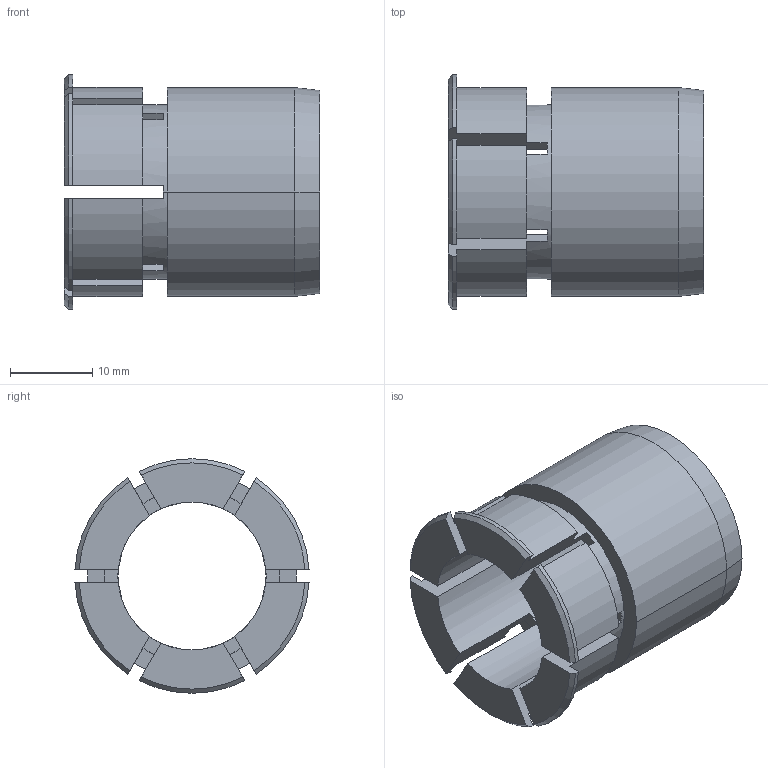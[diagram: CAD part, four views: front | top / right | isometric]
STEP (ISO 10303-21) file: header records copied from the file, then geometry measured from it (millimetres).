
FILE_DESCRIPTION(('STEP AP214'),'1');
FILE_NAME('REDUZIEREINSATZ HS35-18-11087748.stp','2018-09-24T08:51:38',(' '),(' '),'Spatial InterOp 3D',' ',' ');
FILE_SCHEMA(('automotive_design'));
Length unit declared in the file: millimetre
Products named in the file (1): 1
Bounding box: 31 x 28.46 x 28.5 mm (x, y, z)
Volume: 7044.9 mm3; surface area: 5404.3 mm2
Topology: 1 solids, 1 shells, 64 faces, 184 edges, 122 vertices
Faces by surface type: plane 38, cylinder 18, cone 8
Entity records: 2648 total; most frequent: CARTESIAN_POINT 395, DIRECTION 370, ORIENTED_EDGE 368, EDGE_CURVE 184, AXIS2_PLACEMENT_3D 133, VERTEX_POINT 122, LINE 104, VECTOR 104
